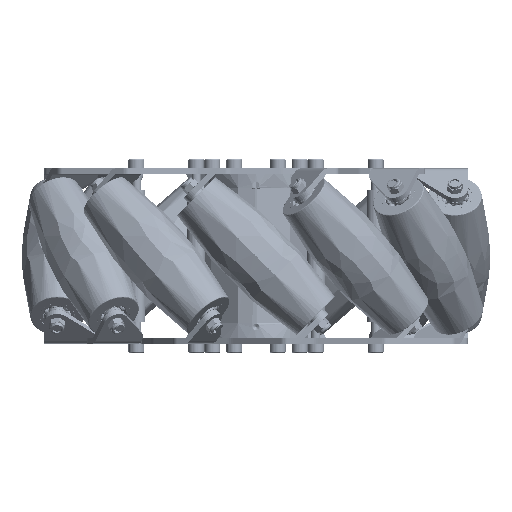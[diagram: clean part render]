
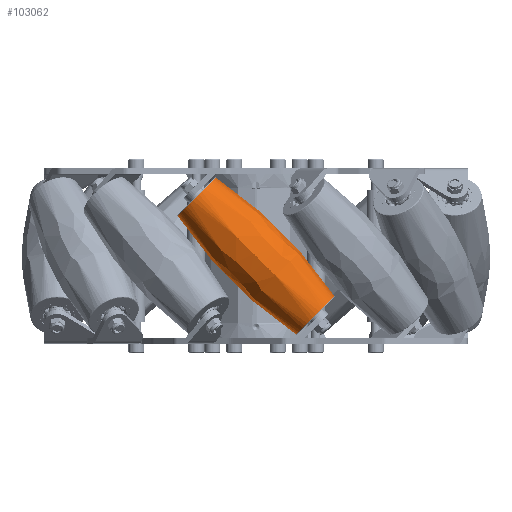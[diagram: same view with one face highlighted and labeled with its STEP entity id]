
A CAD part, front view. The second image highlights one B-rep face of the part: STEP entity #103062.
In plain terms, the highlighted free-form (B-spline) face has degree [3, 3] with [4, 4] control points.
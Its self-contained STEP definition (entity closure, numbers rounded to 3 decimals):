
#103062 = ADVANCED_FACE('',(#103063),#103078,.T.);
#103063 = FACE_BOUND('',#103064,.T.);
#103064 = EDGE_LOOP('',(#103065,#103100,#103116,#103132));
#103065 = ORIENTED_EDGE('',*,*,#103066,.T.);
#103066 = EDGE_CURVE('',#103067,#103069,#103071,.T.);
#103067 = VERTEX_POINT('',#103068);
#103068 = CARTESIAN_POINT('',(21.866,107.9,
    42.616));
#103069 = VERTEX_POINT('',#103070);
#103070 = CARTESIAN_POINT('',(42.616,107.9,
    21.866));
#103071 = SURFACE_CURVE('',#103072,(#103077),.PCURVE_S1.);
#103072 = ( BOUNDED_CURVE() B_SPLINE_CURVE(3,(#103073,#103074,#103075,
#103076),.UNSPECIFIED.,.F.,.F.) B_SPLINE_CURVE_WITH_KNOTS((4,4),(0.,1.),
.PIECEWISE_BEZIER_KNOTS.) CURVE() GEOMETRIC_REPRESENTATION_ITEM() 
RATIONAL_B_SPLINE_CURVE((1.,0.333,0.333,1.)) 
REPRESENTATION_ITEM('') );
#103073 = CARTESIAN_POINT('',(21.866,107.9,42.616));
#103074 = CARTESIAN_POINT('',(21.866,137.245,42.616));
#103075 = CARTESIAN_POINT('',(42.616,137.245,21.866));
#103076 = CARTESIAN_POINT('',(42.616,107.9,21.866));
#103077 = PCURVE('',#103078,#103095);
#103078 = ( BOUNDED_SURFACE() B_SPLINE_SURFACE(3,3,(
    (#103079,#103080,#103081,#103082)
    ,(#103083,#103084,#103085,#103086)
    ,(#103087,#103088,#103089,#103090)
    ,(#103091,#103092,#103093,#103094
)),.UNSPECIFIED.,.F.,.F.,.F.) B_SPLINE_SURFACE_WITH_KNOTS((4,4),(4,4),(
    0.,1.),(0.,1.),.PIECEWISE_BEZIER_KNOTS.) 
GEOMETRIC_REPRESENTATION_ITEM() RATIONAL_B_SPLINE_SURFACE((
    (1.,0.333,0.333,1.)
    ,(0.988,0.329,0.329,0.988)
    ,(0.988,0.329,0.329,0.988)
,(1.,0.333,0.333,1.
))) REPRESENTATION_ITEM('') SURFACE() );
#103079 = CARTESIAN_POINT('',(-42.616,107.9,-21.866));
#103080 = CARTESIAN_POINT('',(-42.616,137.245,-21.866)
  );
#103081 = CARTESIAN_POINT('',(-21.866,137.245,-42.616)
  );
#103082 = CARTESIAN_POINT('',(-21.866,107.9,-42.616));
#103083 = CARTESIAN_POINT('',(-25.445,107.9,3.68));
#103084 = CARTESIAN_POINT('',(-25.445,149.089,3.68));
#103085 = CARTESIAN_POINT('',(3.68,149.089,-25.445));
#103086 = CARTESIAN_POINT('',(3.68,107.9,-25.445));
#103087 = CARTESIAN_POINT('',(-3.68,107.9,25.445));
#103088 = CARTESIAN_POINT('',(-3.68,149.089,25.445));
#103089 = CARTESIAN_POINT('',(25.445,149.089,-3.68));
#103090 = CARTESIAN_POINT('',(25.445,107.9,-3.68));
#103091 = CARTESIAN_POINT('',(21.866,107.9,42.616));
#103092 = CARTESIAN_POINT('',(21.866,137.245,42.616));
#103093 = CARTESIAN_POINT('',(42.616,137.245,21.866));
#103094 = CARTESIAN_POINT('',(42.616,107.9,21.866));
#103095 = DEFINITIONAL_REPRESENTATION('',(#103096),#103099);
#103096 = B_SPLINE_CURVE_WITH_KNOTS('',1,(#103097,#103098),
  .UNSPECIFIED.,.F.,.F.,(2,2),(0.,1.),.PIECEWISE_BEZIER_KNOTS.);
#103097 = CARTESIAN_POINT('',(1.,0.));
#103098 = CARTESIAN_POINT('',(1.,1.));
#103099 = ( GEOMETRIC_REPRESENTATION_CONTEXT(2) 
PARAMETRIC_REPRESENTATION_CONTEXT() REPRESENTATION_CONTEXT('2D SPACE',''
  ) );
#103100 = ORIENTED_EDGE('',*,*,#103101,.T.);
#103101 = EDGE_CURVE('',#103069,#103102,#103104,.T.);
#103102 = VERTEX_POINT('',#103103);
#103103 = CARTESIAN_POINT('',(-21.866,107.9,
    -42.616));
#103104 = SURFACE_CURVE('',#103105,(#103110),.PCURVE_S1.);
#103105 = CIRCLE('',#103106,237.);
#103106 = AXIS2_PLACEMENT_3D('',#103107,#103108,#103109);
#103107 = CARTESIAN_POINT('',(-154.079,107.9,
    154.079));
#103108 = DIRECTION('',(0.,1.,0.));
#103109 = DIRECTION('',(0.83,0.,-0.558
    ));
#103110 = PCURVE('',#103078,#103111);
#103111 = DEFINITIONAL_REPRESENTATION('',(#103112),#103115);
#103112 = B_SPLINE_CURVE_WITH_KNOTS('',1,(#103113,#103114),
  .UNSPECIFIED.,.F.,.F.,(2,2),(0.,0.387),
  .PIECEWISE_BEZIER_KNOTS.);
#103113 = CARTESIAN_POINT('',(1.,1.));
#103114 = CARTESIAN_POINT('',(0.,1.));
#103115 = ( GEOMETRIC_REPRESENTATION_CONTEXT(2) 
PARAMETRIC_REPRESENTATION_CONTEXT() REPRESENTATION_CONTEXT('2D SPACE',''
  ) );
#103116 = ORIENTED_EDGE('',*,*,#103117,.T.);
#103117 = EDGE_CURVE('',#103102,#103118,#103120,.T.);
#103118 = VERTEX_POINT('',#103119);
#103119 = CARTESIAN_POINT('',(-42.616,107.9,
    -21.866));
#103120 = SURFACE_CURVE('',#103121,(#103126),.PCURVE_S1.);
#103121 = ( BOUNDED_CURVE() B_SPLINE_CURVE(3,(#103122,#103123,#103124,
#103125),.UNSPECIFIED.,.F.,.F.) B_SPLINE_CURVE_WITH_KNOTS((4,4),(0.,1.),
.PIECEWISE_BEZIER_KNOTS.) CURVE() GEOMETRIC_REPRESENTATION_ITEM() 
RATIONAL_B_SPLINE_CURVE((1.,0.333,0.333,1.)) 
REPRESENTATION_ITEM('') );
#103122 = CARTESIAN_POINT('',(-21.866,107.9,-42.616));
#103123 = CARTESIAN_POINT('',(-21.866,137.245,-42.616)
  );
#103124 = CARTESIAN_POINT('',(-42.616,137.245,-21.866)
  );
#103125 = CARTESIAN_POINT('',(-42.616,107.9,-21.866));
#103126 = PCURVE('',#103078,#103127);
#103127 = DEFINITIONAL_REPRESENTATION('',(#103128),#103131);
#103128 = B_SPLINE_CURVE_WITH_KNOTS('',1,(#103129,#103130),
  .UNSPECIFIED.,.F.,.F.,(2,2),(0.,1.),.PIECEWISE_BEZIER_KNOTS.);
#103129 = CARTESIAN_POINT('',(0.,1.));
#103130 = CARTESIAN_POINT('',(0.,0.));
#103131 = ( GEOMETRIC_REPRESENTATION_CONTEXT(2) 
PARAMETRIC_REPRESENTATION_CONTEXT() REPRESENTATION_CONTEXT('2D SPACE',''
  ) );
#103132 = ORIENTED_EDGE('',*,*,#103133,.T.);
#103133 = EDGE_CURVE('',#103118,#103067,#103134,.T.);
#103134 = SURFACE_CURVE('',#103135,(#103140),.PCURVE_S1.);
#103135 = CIRCLE('',#103136,237.);
#103136 = AXIS2_PLACEMENT_3D('',#103137,#103138,#103139);
#103137 = CARTESIAN_POINT('',(154.079,107.9,
    -154.079));
#103138 = DIRECTION('',(0.,1.,0.));
#103139 = DIRECTION('',(-0.83,0.,
    0.558));
#103140 = PCURVE('',#103078,#103141);
#103141 = DEFINITIONAL_REPRESENTATION('',(#103142),#103145);
#103142 = B_SPLINE_CURVE_WITH_KNOTS('',1,(#103143,#103144),
  .UNSPECIFIED.,.F.,.F.,(2,2),(0.,0.387),
  .PIECEWISE_BEZIER_KNOTS.);
#103143 = CARTESIAN_POINT('',(0.,0.));
#103144 = CARTESIAN_POINT('',(1.,0.));
#103145 = ( GEOMETRIC_REPRESENTATION_CONTEXT(2) 
PARAMETRIC_REPRESENTATION_CONTEXT() REPRESENTATION_CONTEXT('2D SPACE',''
  ) );
